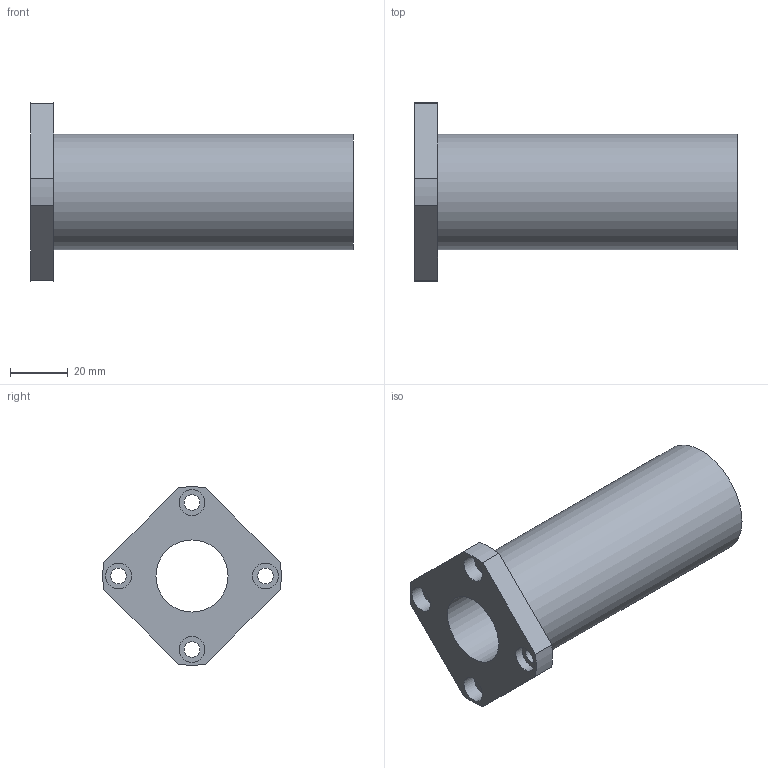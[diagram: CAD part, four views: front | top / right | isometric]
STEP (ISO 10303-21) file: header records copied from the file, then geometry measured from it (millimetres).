
FILE_DESCRIPTION( ( 'STEP AP203' ), '1' );
FILE_NAME( 'p:/temp/worker_6/temp/exporttempdir_1780_290_3RmEG/format_0/LMEK25LUU.stp', '2020-05-07T07:02:22', ( 'License CC BY-ND 4.0' ), ( 'CADENAS' ), ' ', 'PARTsolutions', ' ' );
FILE_SCHEMA( ( 'CONFIG_CONTROL_DESIGN' ) );
Length unit declared in the file: millimetre
Products named in the file (1): _LMEK25LUU
Bounding box: 112 x 61.92 x 61.92 mm (x, y, z)
Volume: 93579.7 mm3; surface area: 27765.3 mm2
Topology: 1 solids, 1 shells, 25 faces, 55 edges, 37 vertices
Faces by surface type: cylinder 14, plane 11
Full cylindrical faces by diameter (mm): 5.5 x4, 9 x4, 25 x1, 40 x1
Entity records: 710 total; most frequent: DIRECTION 124, CARTESIAN_POINT 106, ORIENTED_EDGE 88, AXIS2_PLACEMENT_3D 54, EDGE_LOOP 50, EDGE_CURVE 44, VERTEX_POINT 36, FACE_OUTER_BOUND 35
